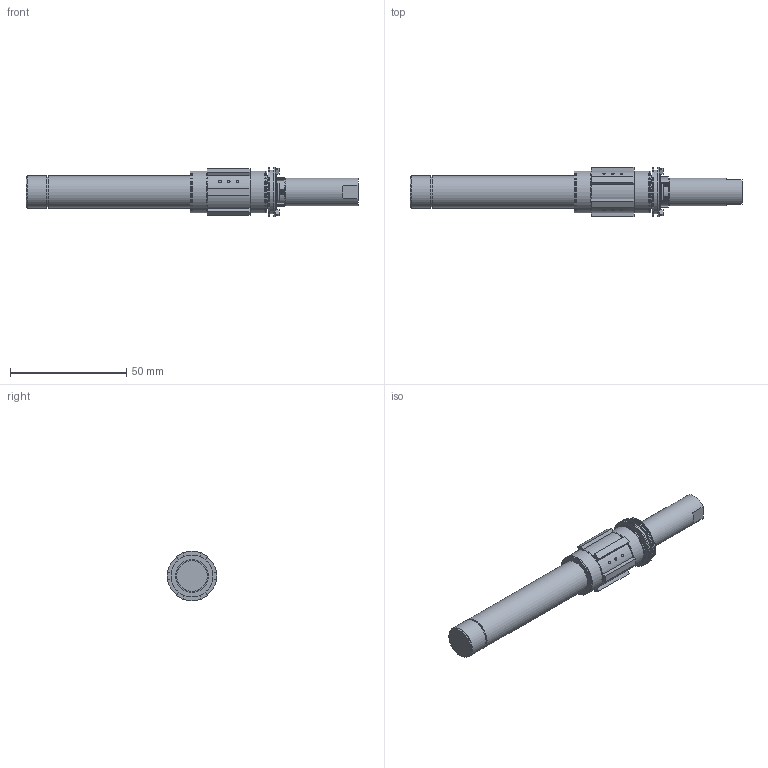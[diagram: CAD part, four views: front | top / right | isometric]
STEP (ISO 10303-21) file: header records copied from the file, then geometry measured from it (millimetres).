
FILE_DESCRIPTION(('Open CASCADE Model'),'2;1');
FILE_NAME('R12_INSTALL_01','2026-09-28T18:28:02',('Author'),( 'Open CASCADE'),'Open CASCADE STEP processor 7.9','build123d', 'Unknown');
FILE_SCHEMA(('AUTOMOTIVE_DESIGN { 1 0 10303 214 1 1 1 1 }'));
Length unit declared in the file: millimetre
Products named in the file (3): R12_INSTALL_01; U_R12_local_12mm_shaft; B3_R12_U_axis_single_sided_dog
Assembly tree (2 placements, depth 2):
  R12_INSTALL_01
    U_R12_local_12mm_shaft
    B3_R12_U_axis_single_sided_dog
Bounding box: 142.5 x 21.2 x 21.2 mm (x, y, z)
Volume: 24730.9 mm3; surface area: 9013.4 mm2
Topology: 2 solids, 2 shells, 746 faces, 1950 edges, 1238 vertices
Faces by surface type: plane 668, cylinder 53, cone 16, sphere 9
Full cylindrical faces by diameter (mm): 4.2 x1, 11.6 x1, 12 x2, 13.2 x2, 14 x2, 14.2 x2, 17.7 x4, 18 x4, 18.8 x1, 21.2 x2
Entity records: 51152 total; most frequent: CARTESIAN_POINT 11436, DIRECTION 7401, LINE 5516, VECTOR 5516, ORIENTED_EDGE 3894, PCURVE 3894, DEFINITIONAL_REPRESENTATION 3894, EDGE_CURVE 1947
